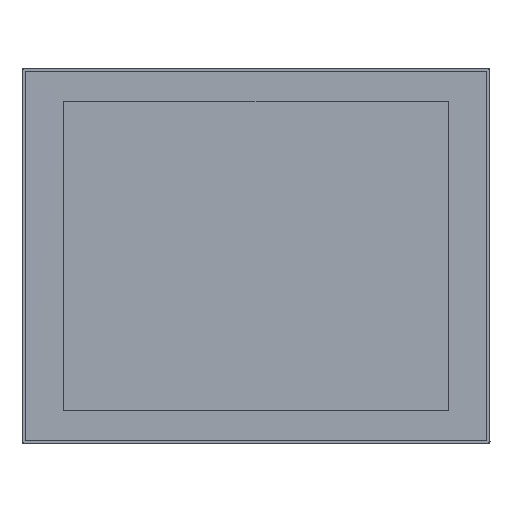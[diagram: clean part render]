
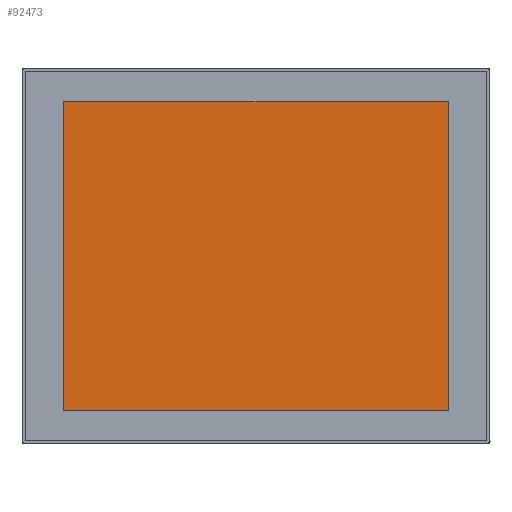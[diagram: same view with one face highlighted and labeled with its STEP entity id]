
A CAD part, top view. The second image highlights one B-rep face of the part: STEP entity #92473.
In plain terms, the highlighted planar face has unit normal (0, 0, 1).
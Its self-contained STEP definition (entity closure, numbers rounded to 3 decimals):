
#4139 = DIRECTION ( 'NONE',  ( 0., 0., 1. ) ) ;
#6961 = CARTESIAN_POINT ( 'NONE',  ( -189.16, 151.5, 4.9 ) ) ;
#8086 = EDGE_CURVE ( 'NONE', #45823, #35065, #56769, .T. ) ;
#12544 = VECTOR ( 'NONE', #28399, 1000. ) ;
#12925 = EDGE_LOOP ( 'NONE', ( #95286, #68473, #38755, #17349 ) ) ;
#15214 = CARTESIAN_POINT ( 'NONE',  ( -189.16, 151.5, 4.8 ) ) ;
#17349 = ORIENTED_EDGE ( 'NONE', *, *, #49279, .T. ) ;
#21057 = VERTEX_POINT ( 'NONE', #61956 ) ;
#21539 = CARTESIAN_POINT ( 'NONE',  ( -63.053, 151.5, 4.9 ) ) ;
#21849 = CARTESIAN_POINT ( 'NONE',  ( 63.053, 151.5, 4.9 ) ) ;
#23007 = EDGE_CURVE ( 'NONE', #69301, #21057, #90770, .T. ) ;
#28399 = DIRECTION ( 'NONE',  ( 1., 0., 0. ) ) ;
#30302 = VECTOR ( 'NONE', #50046, 1000. ) ;
#34298 = AXIS2_PLACEMENT_3D ( 'NONE', #91994, #4139, #70824 ) ;
#35065 = VERTEX_POINT ( 'NONE', #59268 ) ;
#38755 = ORIENTED_EDGE ( 'NONE', *, *, #8086, .F. ) ;
#41380 = CARTESIAN_POINT ( 'NONE',  ( 189.16, -151.5, 4.7 ) ) ;
#45823 = VERTEX_POINT ( 'NONE', #15214 ) ;
#48811 = LINE ( 'NONE', #85744, #30302 ) ;
#49279 = EDGE_CURVE ( 'NONE', #45823, #69301, #48811, .T. ) ;
#50046 = DIRECTION ( 'NONE',  ( 0., -1., 0. ) ) ;
#56769 = B_SPLINE_CURVE_WITH_KNOTS ( 'NONE', 3,
 ( #6961, #21539, #21849, #79447 ),
 .UNSPECIFIED., .F., .F.,
 ( 4, 4 ),
 ( 0., 1. ),
 .UNSPECIFIED. ) ;
#58033 = LINE ( 'NONE', #41380, #83388 ) ;
#58075 = EDGE_CURVE ( 'NONE', #21057, #35065, #58033, .T. ) ;
#59268 = CARTESIAN_POINT ( 'NONE',  ( 189.16, 151.5, 4.8 ) ) ;
#61956 = CARTESIAN_POINT ( 'NONE',  ( 189.16, -151.5, 4.7 ) ) ;
#62790 = PLANE ( 'NONE',  #34298 ) ;
#64022 = FACE_OUTER_BOUND ( 'NONE', #12925, .T. ) ;
#68473 = ORIENTED_EDGE ( 'NONE', *, *, #58075, .T. ) ;
#69301 = VERTEX_POINT ( 'NONE', #73387 ) ;
#70824 = DIRECTION ( 'NONE',  ( 1., 0., 0. ) ) ;
#73387 = CARTESIAN_POINT ( 'NONE',  ( -189.16, -151.5, 4.7 ) ) ;
#79447 = CARTESIAN_POINT ( 'NONE',  ( 189.16, 151.5, 4.8 ) ) ;
#83388 = VECTOR ( 'NONE', #85738, 1000. ) ;
#85738 = DIRECTION ( 'NONE',  ( 0., 1., 0. ) ) ;
#85744 = CARTESIAN_POINT ( 'NONE',  ( -189.16, -151.5, 4.7 ) ) ;
#86914 = CARTESIAN_POINT ( 'NONE',  ( 189.16, -151.5, 4.7 ) ) ;
#90770 = LINE ( 'NONE', #86914, #12544 ) ;
#91994 = CARTESIAN_POINT ( 'NONE',  ( 0., 0., 4.7 ) ) ;
#92473 = ADVANCED_FACE ( 'NONE', ( #64022 ), #62790, .T. ) ;
#95286 = ORIENTED_EDGE ( 'NONE', *, *, #23007, .T. ) ;
